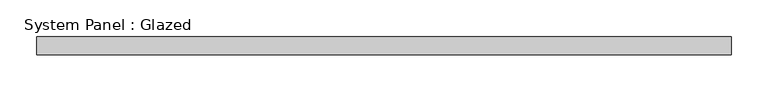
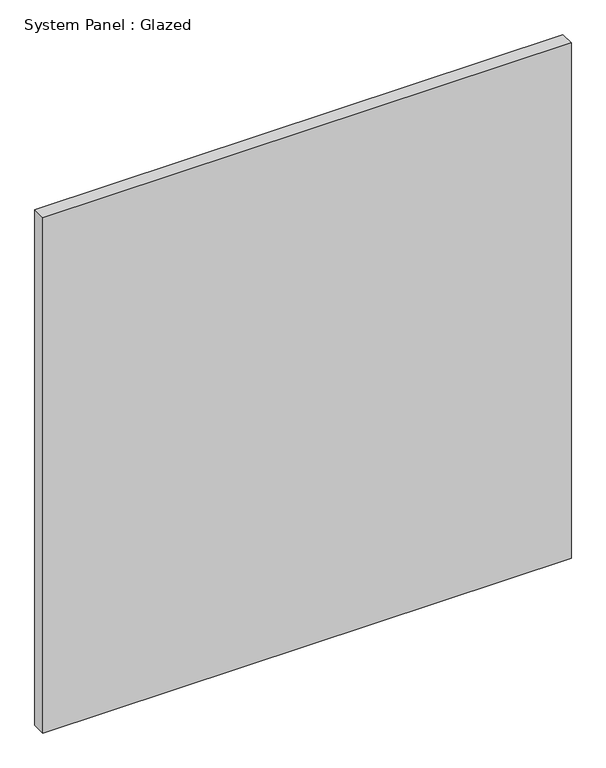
"""IFC4 building model written with IfcOpenShell, lengths in millimetres: plate geometry, System Panel : Glazed."""

from ifc_helpers import new_model, si_unit, origin, origin_with_axes, place, context, project, spatial, polyline, outline, extrude, source, transform, mapped, element, save


def system_panel_glazed_16182f7a(model_context):
    return source(origin(), model_context, "Body", "SweptSolid", [
        extrude(outline(polyline([(475.0, 24.5), (-475.0, 24.5), (-475.0, 49.5), (475.0, 49.5), (475.0, 24.5)])), origin_with_axes(), (0.0, 0.0, 1.0), 978.8970931),
    ])


if __name__ == "__main__":
    model = new_model("IFC4")
    model_context = context("Model", 3, world=origin())
    ifc_project = project(units=[si_unit("LENGTHUNIT", "METRE", prefix="MILLI")], contexts=[model_context])
    site = spatial("IfcSite", under=ifc_project)
    building = spatial("IfcBuilding", under=site)
    placement = place(None, origin())
    system_panel_glazed_shape = system_panel_glazed_16182f7a(model_context)
    element("IfcPlate", 1, ObjectType="System Panel : Glazed", at=placement, inside=building, context=model_context, shape_type="MappedRepresentation", body=[
        mapped(system_panel_glazed_shape, transform((0.0, 0.0, 0.0), x_axis=(1.0, 0.0, 0.0), y_axis=(0.0, 1.0, 0.0), z_axis=(0.0, 0.0, 1.0))),
    ])
    save(model, "model.ifc")
